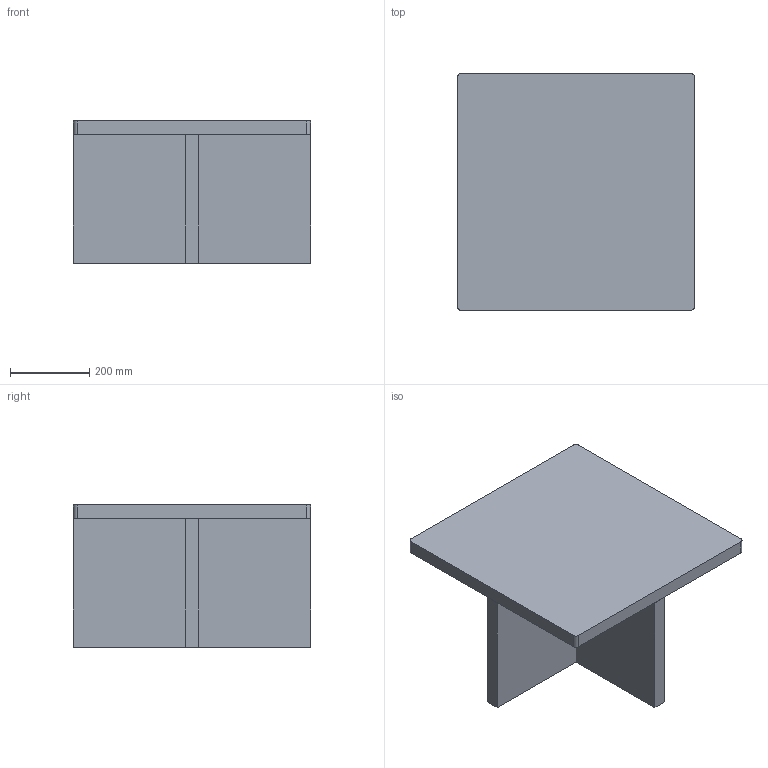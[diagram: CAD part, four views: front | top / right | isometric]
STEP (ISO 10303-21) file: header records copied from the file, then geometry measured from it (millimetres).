
FILE_DESCRIPTION(/* description */ (''),/* implementation_level */ '2;1');
FILE_NAME(/* name */ 'Brutus Coffee Table',/* time_stamp */ '2020-07-07T11:10:58+02:00',/* author */ (''),/* organization */ (''),/* preprocessor_version */ 'ST-DEVELOPER v15',/* originating_system */ '',/* authorisation */ '');
FILE_SCHEMA (('AUTOMOTIVE_DESIGN'));
Length unit declared in the file: millimetre
Products named in the file (1): Document
Bounding box: 600 x 600 x 360 mm (x, y, z)
Volume: 26246995.6 mm3; surface area: 1712727.4 mm2
Topology: 3 solids, 3 shells, 22 faces, 48 edges, 32 vertices
Faces by surface type: plane 18, bspline 4
Entity records: 547 total; most frequent: CARTESIAN_POINT 180, ORIENTED_EDGE 96, EDGE_CURVE 48, B_SPLINE_CURVE_WITH_KNOTS 40, VERTEX_POINT 32, ADVANCED_FACE 22, FACE_OUTER_BOUND 22, EDGE_LOOP 22
